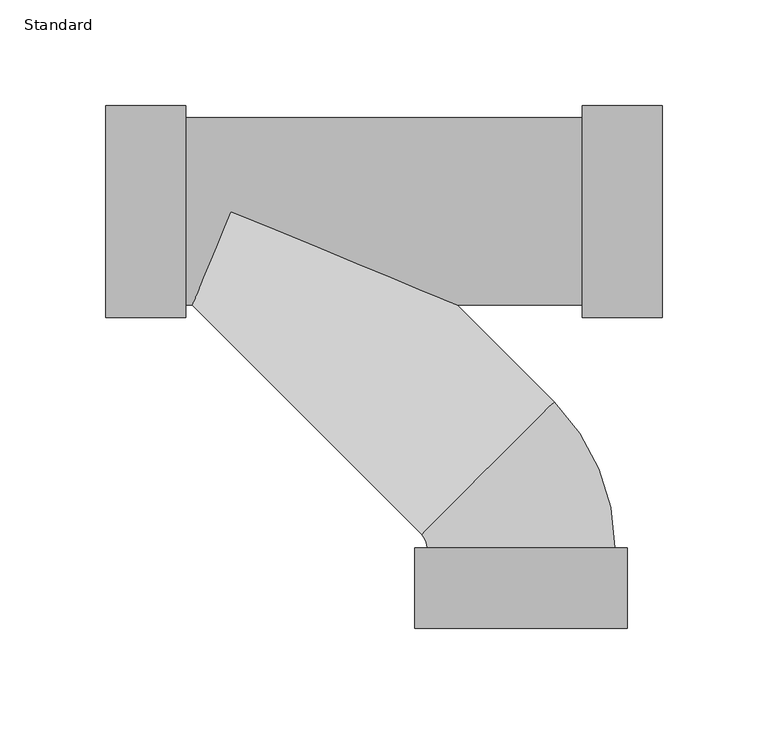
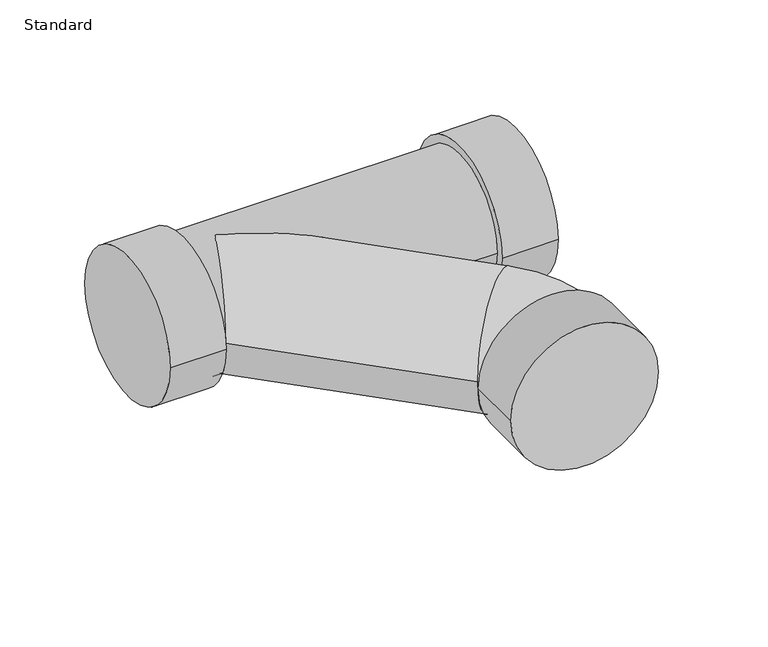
"""IFC4 building model written with IfcOpenShell, lengths in millimetres: pipe fitting geometry, GES Wye Combination with 8th Bend - PVC - Sch 40 - DWV : Standard."""

from ifc_helpers import new_model, si_unit, point, frame, origin, place, context, project, spatial, circle_curve, ellipse_curve, trimmed, source, transform, mapped, element, save
from ifc_brep_helpers import plane_surface, cylinder_surface, revolved_surface, advanced_brep


def standard_544587f6(model_context):
    return source(origin(), model_context, "Body", "AdvancedBrep", [
        advanced_brep(
        [(-196.8327255, -50.2666, 0.0), (-196.8327255, 50.2666, 0.0), (-158.7327255, -50.2666, 0.0), (-158.7327255, 50.2666, 0.0), (-158.7327255, -44.45, 0.0), (-158.7327255, 44.45, 0.0), (28.9986745, 44.45, 0.0), (-155.8014691, -44.45, 0.0), (-137.3896762, 0.0, 44.45), (-30.0778834, -44.45, 0.0), (28.9986745, -44.45, 0.0), (-137.3896762, 0.0, -44.45), (28.9986745, -50.2666, 0.0), (28.9986745, 50.2666, 0.0), (67.0986745, -50.2666, 0.0), (67.0986745, 50.2666, 0.0), (-47.0663038, -153.1851653, 0.0), (-44.4327252, -159.542213, 0.0), (44.4672743, -159.532587, 0.0), (15.795489, -90.3233724, 0.0), (-50.2493252, -159.5428428, 0.0), (50.2838743, -159.5319572, 0.0), (-50.2451997, -197.6428426, 0.0), (50.2879997, -197.631957, 0.0)],
        [
            (0, 1, circle_curve(frame((-196.8327255, 0.0, 0.0), z_axis=(-1.0, 0.0, 0.0), x_axis=(0.0, 1.0, 0.0)), 50.2666)),
            (1, 0, circle_curve(frame((-196.8327255, 0.0, 0.0), z_axis=(-1.0, 0.0, 0.0), x_axis=(0.0, 1.0, 0.0)), 50.2666)),
            (2, 3, circle_curve(frame((-158.7327255, 0.0, 0.0), z_axis=(1.0, 0.0, 0.0), x_axis=(0.0, 1.0, 0.0)), 50.2666)),
            (3, 2, circle_curve(frame((-158.7327255, 0.0, 0.0), z_axis=(1.0, 0.0, 0.0), x_axis=(0.0, 1.0, 0.0)), 50.2666)),
            (4, 5, circle_curve(frame((-158.7327255, 0.0, 0.0), z_axis=(-1.0, 0.0, 0.0), x_axis=(0.0, 1.0, 0.0)), 44.45)),
            (5, 4, circle_curve(frame((-158.7327255, 0.0, 0.0), z_axis=(-1.0, 0.0, 0.0), x_axis=(0.0, 1.0, 0.0)), 44.45)),
            (0, 2),
            (3, 1),
            (6, 5),
            (4, 7),
            (7, 8, ellipse_curve(frame((-137.3896762, 0.0, 0.0), z_axis=(-0.9238795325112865, 0.3826834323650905, 0.0), x_axis=(-0.38268343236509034, -0.9238795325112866, 0.0)), 48.1123333, 44.45)),
            (8, 9, ellipse_curve(frame((-137.3896762, 0.0, 0.0), z_axis=(0.3826834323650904, 0.9238795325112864, 0.0), x_axis=(-0.9238795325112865, 0.38268343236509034, 0.0)), 116.1534476, 44.45)),
            (9, 10),
            (10, 6, circle_curve(frame((28.9986745, 0.0, 0.0), z_axis=(-1.0, 0.0, 0.0), x_axis=(0.0, 1.0, 0.0)), 44.45)),
            (6, 10, circle_curve(frame((28.9986745, 0.0, 0.0), z_axis=(-1.0, 0.0, 0.0), x_axis=(0.0, 1.0, 0.0)), 44.45)),
            (9, 11, ellipse_curve(frame((-137.3896762, 0.0, 0.0), z_axis=(0.3826834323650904, 0.9238795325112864, 0.0), x_axis=(-0.9238795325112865, 0.38268343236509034, 0.0)), 116.1534476, 44.45)),
            (11, 7, ellipse_curve(frame((-137.3896762, 0.0, 0.0), z_axis=(-0.9238795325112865, 0.3826834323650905, 0.0), x_axis=(-0.38268343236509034, -0.9238795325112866, 0.0)), 48.1123333, 44.45)),
            (12, 13, circle_curve(frame((28.9986745, 0.0, 0.0), z_axis=(-1.0, 0.0, 0.0), x_axis=(0.0, 1.0, 0.0)), 50.2666)),
            (13, 12, circle_curve(frame((28.9986745, 0.0, 0.0), z_axis=(-1.0, 0.0, 0.0), x_axis=(0.0, 1.0, 0.0)), 50.2666)),
            (14, 15, circle_curve(frame((67.0986745, 0.0, 0.0), z_axis=(1.0, 0.0, 0.0), x_axis=(0.0, 1.0, 0.0)), 50.2666)),
            (15, 14, circle_curve(frame((67.0986745, 0.0, 0.0), z_axis=(1.0, 0.0, 0.0), x_axis=(0.0, 1.0, 0.0)), 50.2666)),
            (12, 14),
            (15, 13),
            (16, 17, circle_curve(frame((-53.4243251, -159.5431866, 0.0), z_axis=(0.0, 0.0, -1.0), x_axis=(0.9999999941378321, 0.00010827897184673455, 0.0)), 8.9916)),
            (17, 18, circle_curve(frame((0.0172745, -159.5374, 0.0), z_axis=(-0.00010827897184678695, 0.9999999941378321, 0.0), x_axis=(-0.9999999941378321, -0.00010827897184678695, 0.0)), 44.45)),
            (18, 19, circle_curve(frame((-53.4243251, -159.5431866, 0.0), z_axis=(0.0, 0.0, 1.0), x_axis=(0.9999999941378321, 0.00010827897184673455, 0.0)), 97.8916)),
            (19, 16, circle_curve(frame((-15.6354074, -121.7542688, 0.0), z_axis=(0.7071067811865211, -0.7071067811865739, 0.0), x_axis=(-0.7071067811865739, -0.7071067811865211, 0.0)), 44.45)),
            (16, 19, circle_curve(frame((-15.6354074, -121.7542688, 0.0), z_axis=(0.70710678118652, -0.7071067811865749, 0.0), x_axis=(-0.7071067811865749, -0.70710678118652, 0.0)), 44.45)),
            (18, 17, circle_curve(frame((0.0172745, -159.5374, 0.0), z_axis=(-0.00010827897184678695, 0.9999999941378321, 0.0), x_axis=(-0.9999999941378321, -0.00010827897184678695, 0.0)), 44.45)),
            (19, 9),
            (7, 16),
            (20, 21, circle_curve(frame((0.0172745, -159.5374, 0.0), z_axis=(-0.00010827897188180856, 0.9999999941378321, 0.0), x_axis=(0.9999999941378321, 0.00010827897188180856, 0.0)), 50.2666)),
            (21, 20, circle_curve(frame((0.0172745, -159.5374, 0.0), z_axis=(-0.00010827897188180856, 0.9999999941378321, 0.0), x_axis=(0.9999999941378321, 0.00010827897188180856, 0.0)), 50.2666)),
            (22, 23, circle_curve(frame((0.0214, -197.6373998, 0.0), z_axis=(0.00010827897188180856, -0.9999999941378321, 0.0), x_axis=(0.9999999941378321, 0.00010827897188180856, 0.0)), 50.2666)),
            (23, 22, circle_curve(frame((0.0214, -197.6373998, 0.0), z_axis=(0.00010827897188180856, -0.9999999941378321, 0.0), x_axis=(0.9999999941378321, 0.00010827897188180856, 0.0)), 50.2666)),
            (20, 22),
            (23, 21),
        ],
        [
            plane_surface(frame((-196.8327255, 0.0, 0.0), z_axis=(-1.0, 0.0, 0.0), x_axis=(0.0, 0.0, 1.0))),
            plane_surface(frame((-158.7327255, 0.0, 0.0), z_axis=(1.0, 0.0, 0.0), x_axis=(0.0, 0.0, 1.0))),
            cylinder_surface(frame((-196.8327255, 0.0, 0.0), z_axis=(-1.0, 0.0, 0.0), x_axis=(0.0, 1.0, 0.0)), 50.2666),
            cylinder_surface(frame((-158.7327255, 0.0, 0.0), z_axis=(-1.0, 0.0, 0.0), x_axis=(0.0, 1.0, 0.0)), 44.45),
            plane_surface(frame((28.9986745, 0.0, 0.0), z_axis=(-1.0, 0.0, 0.0), x_axis=(0.0, 0.0, 1.0))),
            plane_surface(frame((67.0986745, 0.0, 0.0), z_axis=(1.0, 0.0, 0.0), x_axis=(0.0, 0.0, 1.0))),
            cylinder_surface(frame((28.9986745, 0.0, 0.0), z_axis=(-1.0, 0.0, 0.0), x_axis=(0.0, 1.0, 0.0)), 50.2666),
            revolved_surface(trimmed(ellipse_curve(frame((0.0172745, -159.5374, 0.0), z_axis=(0.00010827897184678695, -0.9999999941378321, 0.0), x_axis=(-0.9999999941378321, -0.00010827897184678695, 0.0)), 44.45, 44.45), [point((44.4672743, -159.532587, 0.0))], [point((-44.4327252, -159.542213, 0.0))], True, "CARTESIAN"), (-53.4243251, -159.5431866, 0.0), (0.0, 0.0, 1.0)),
            revolved_surface(trimmed(ellipse_curve(frame((0.0172745, -159.5374, 0.0), z_axis=(0.00010827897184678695, -0.9999999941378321, 0.0), x_axis=(-0.9999999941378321, -0.00010827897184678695, 0.0)), 44.45, 44.45), [point((-44.4327252, -159.542213, 0.0))], [point((44.4672743, -159.532587, 0.0))], True, "CARTESIAN"), (-53.4243251, -159.5431866, 0.0), (0.0, 0.0, 1.0)),
            cylinder_surface(frame((-15.6354074, -121.7542688, 0.0), z_axis=(0.7071067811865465, -0.7071067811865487, 0.0), x_axis=(-0.7071067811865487, -0.7071067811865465, 0.0)), 44.45),
            plane_surface(frame((0.0172745, -159.5374, 0.0), z_axis=(-0.00010827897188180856, 0.9999999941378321, 0.0), x_axis=(0.0, 0.0, 1.0))),
            plane_surface(frame((0.0214, -197.6373998, 0.0), z_axis=(0.00010827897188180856, -0.9999999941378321, 0.0), x_axis=(0.0, 0.0, 1.0))),
            cylinder_surface(frame((0.0172745, -159.5374, 0.0), z_axis=(-0.00010827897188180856, 0.9999999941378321, 0.0), x_axis=(0.9999999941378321, 0.00010827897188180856, 0.0)), 50.2666),
        ],
        [
            (0, [[1, 2]]),
            (1, [[3, 4], [5, 6]]),
            (2, [[-1, 7, -4, 8]]),
            (2, [[-2, -8, -3, -7]]),
            (3, [[9, -5, 10, 11, 12, 13, 14]]),
            (3, [[-9, 15, -13, 16, 17, -10, -6]]),
            (4, [[18, 19], [-14, -15]]),
            (5, [[20, 21]]),
            (6, [[-18, 22, -21, 23]]),
            (6, [[-19, -23, -20, -22]]),
            (7, [[24, 25, 26, 27]]),
            (8, [[-24, 28, -26, 29]]),
            (9, [[-27, 30, -12, -11, 31]]),
            (9, [[-28, -31, -17, -16, -30]]),
            (10, [[32, 33], [-25, -29]]),
            (11, [[34, 35]]),
            (12, [[-32, 36, -35, 37]]),
            (12, [[-33, -37, -34, -36]]),
        ],
    ),
    ])


if __name__ == "__main__":
    model = new_model("IFC4")
    model_context = context("Model", 3, world=origin())
    ifc_project = project(units=[si_unit("LENGTHUNIT", "METRE", prefix="MILLI")], contexts=[model_context])
    site = spatial("IfcSite", under=ifc_project)
    building = spatial("IfcBuilding", under=site)
    placement = place(None, origin())
    standard_shape = standard_544587f6(model_context)
    element("IfcPipeFitting", 1, ObjectType="GES Wye Combination with 8th Bend - PVC - Sch 40 - DWV : Standard", at=placement, inside=building, context=model_context, shape_type="MappedRepresentation", body=[
        mapped(standard_shape, transform((0.0, 0.0, 0.0), x_axis=(1.0, 0.0, 0.0), y_axis=(0.0, 1.0, 0.0), z_axis=(0.0, 0.0, 1.0))),
    ])
    save(model, "model.ifc")
